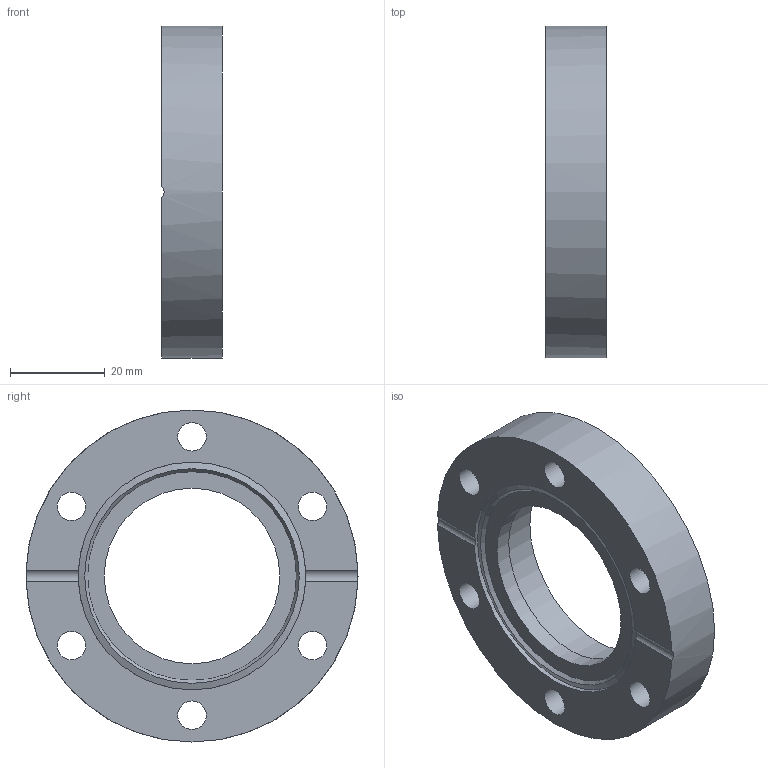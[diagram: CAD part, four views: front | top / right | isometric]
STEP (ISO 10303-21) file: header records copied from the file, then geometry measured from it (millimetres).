
FILE_DESCRIPTION( ( 'Unknown' ), '1' );
FILE_NAME( 'X:/Daten ( aktueller Bestand )/Projekte und Zeichnungen/Solid Edge/15 CF Bauteile/CF-Schweißflansch,fest mit Gewindelöcher/7512FG4.stp', 'Unknown', ( 'Unknown' ), ( 'Unknown' ), 'XStep 1.0', 'Unknown', ' ' );
FILE_SCHEMA( ( 'automotive_design' ) );
Length unit declared in the file: millimetre
Products named in the file (1): 1
Bounding box: 12.7 x 70 x 70 mm (x, y, z)
Volume: 30706.6 mm3; surface area: 11062.5 mm2
Topology: 1 solids, 1 shells, 19 faces, 54 edges, 38 vertices
Faces by surface type: cylinder 12, plane 5, cone 2
Full cylindrical faces by diameter (mm): 6 x6, 37 x1, 40.2 x1, 48 x1, 70 x1
Entity records: 740 total; most frequent: CARTESIAN_POINT 134, DIRECTION 94, ORIENTED_EDGE 66, EDGE_LOOP 46, AXIS2_PLACEMENT_3D 45, EDGE_CURVE 33, FACE_OUTER_BOUND 29, VERTEX_POINT 29
